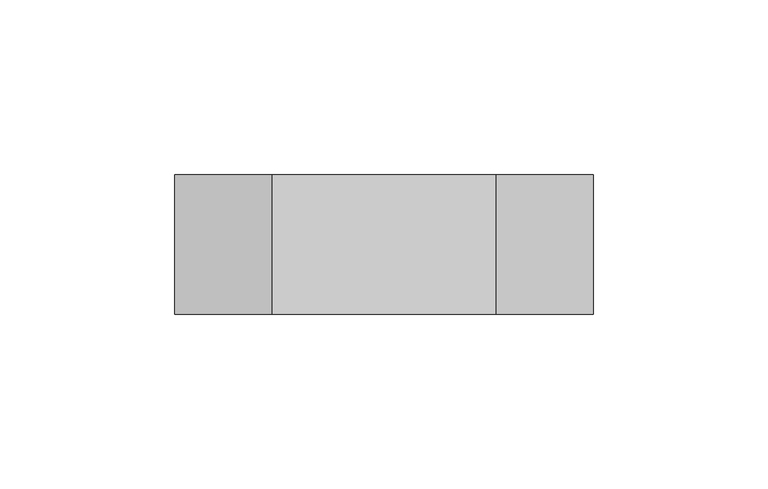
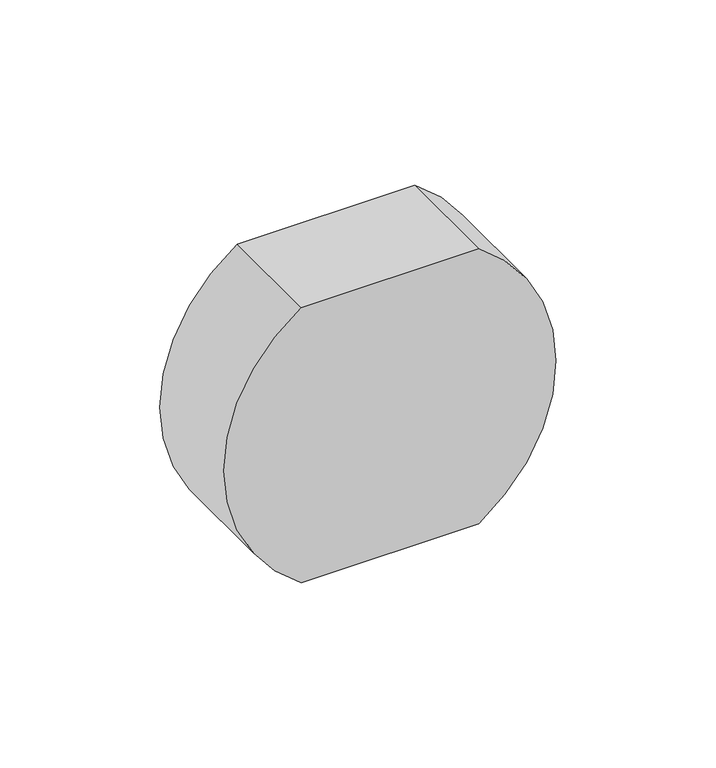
"""IFC4 building model written with IfcOpenShell, lengths in millimetres: proxy geometry, Environmentální detektory.CC : EI208W Vertikální."""

from ifc_helpers import new_model, si_unit, point, frame, frame_2d, origin, place, context, project, spatial, polyline, circle_curve, trimmed, segment, composite_curve, outline, extrude, source, transform, mapped, element, save


def security_devices_12a5800e(model_context):
    return source(origin(), model_context, "Body", "SweptSolid", [
        extrude(outline(composite_curve([segment(polyline([(52.5, 32.0644585), (52.5, -32.0644585)]), True, "CONTINUOUS"), segment(trimmed(circle_curve(frame_2d((0.0, 3.3000882)), 63.3000882), [point((52.5, -32.0644585))], [point((-52.5, -32.0644585))], False, "CARTESIAN"), True, "CONTINUOUS"), segment(polyline([(-52.5, -32.0644585), (-52.5, 32.0644585)]), True, "CONTINUOUS"), segment(trimmed(circle_curve(frame_2d((0.0, -3.3000882)), 63.3000882), [point((-52.5, 32.0644585))], [point((52.5, 32.0644585))], False, "CARTESIAN"), True, "CONTINUOUS")], self_intersect=False)), frame((0.0, -40.0, 0.0), z_axis=(0.0, 1.0, 0.0), x_axis=(0.0, 0.0, 1.0)), (0.0, 0.0, 1.0), 40.0),
    ])


if __name__ == "__main__":
    model = new_model("IFC4")
    model_context = context("Model", 3, world=origin())
    ifc_project = project(units=[si_unit("LENGTHUNIT", "METRE", prefix="MILLI")], contexts=[model_context])
    site = spatial("IfcSite", under=ifc_project)
    building = spatial("IfcBuilding", under=site)
    placement = place(None, origin())
    security_devices_shape = security_devices_12a5800e(model_context)
    element("IfcBuildingElementProxy", 1, Name="Environmentální detektory.CC : EI208W Vertikální", ObjectType="Environmentální detektory.CC : EI208W Vertikální", at=placement, inside=building, context=model_context, shape_type="MappedRepresentation", body=[
        mapped(security_devices_shape, transform((0.0, 0.0, 0.0), x_axis=(1.0, 0.0, 0.0), y_axis=(0.0, 1.0, 0.0), z_axis=(0.0, 0.0, 1.0))),
    ])
    save(model, "model.ifc")
